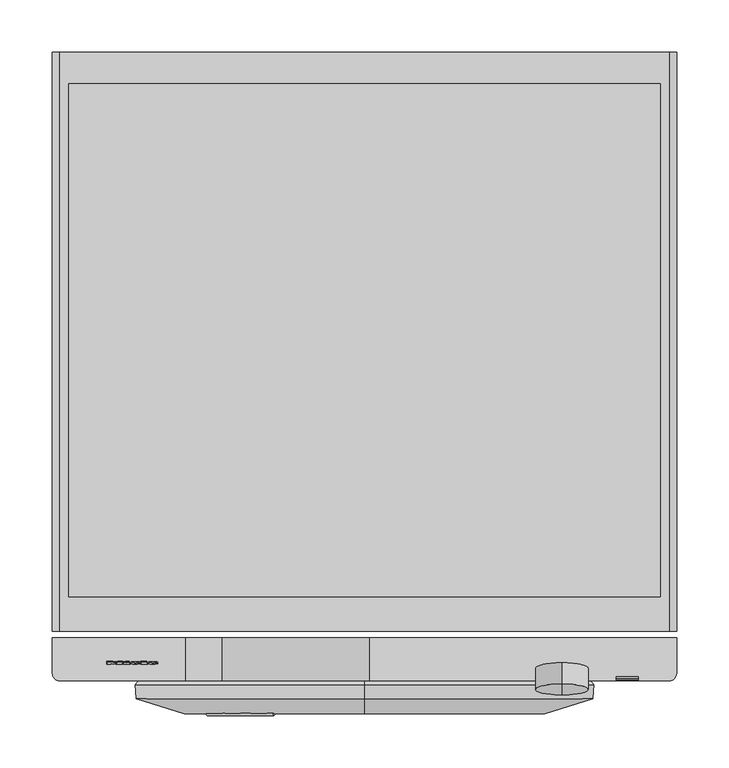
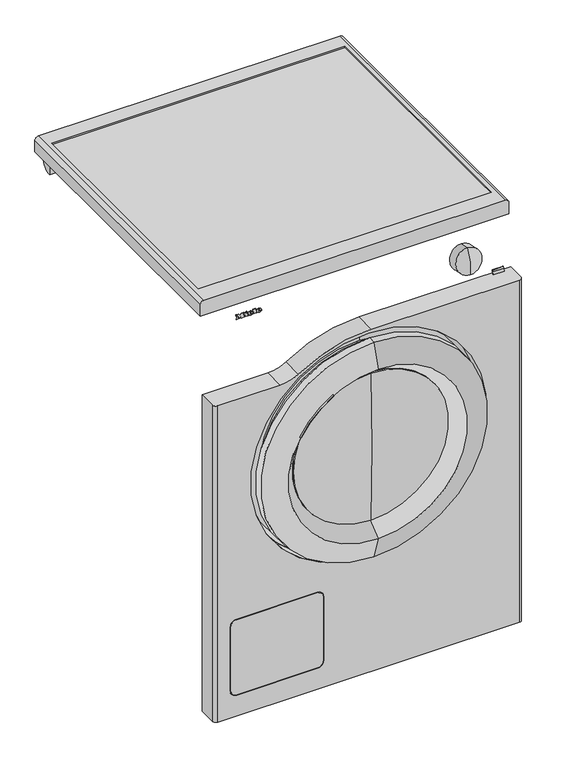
"""IFC4 building model written with IfcOpenShell, lengths in millimetres: proxy geometry, 11272430_D_PWM300DP_LWSmartBiz : 51300001_D_11272430_PWM300DP_LWSmartBiz."""

from ifc_helpers import new_model, si_unit, point, frame, frame_2d, origin, place, context, project, spatial, polyline, circle_curve, ellipse_curve, trimmed, segment, composite_curve, outline, extrude, source, transform, mapped, element, save
from ifc_brep_helpers import plane_surface, cylinder_surface, revolved_surface, extruded_surface, advanced_brep


def specialty_equipment_1517acb9(model_context):
    return source(origin(), model_context, "Body", "SolidModel", [
        advanced_brep(
        [(-202.64, -583.6785086, 811.5729364), (-202.64, -583.5105159, 812.3632796), (-197.288, -583.5105159, 812.3632796), (-206.6, -583.5105159, 812.3632796), (-204.4, -584.0727091, 809.7183685), (-197.424, -583.6785086, 811.5729364), (-199.84, -583.6785086, 811.5729364), (-201.744, -583.8647975, 810.6965161), (-202.64, -583.2976144, 813.3649028), (-202.64, -583.1163154, 814.2178475), (-201.272, -583.1163154, 814.2178475), (-201.272, -583.2976144, 813.3649028), (-202.64, -582.700361, 811.3650247), (-201.744, -582.8866499, 810.4886044), (-199.84, -582.700361, 811.3650247), (-197.424, -582.700361, 811.3650247), (-204.4, -583.0945615, 809.5104568), (-206.6, -582.5323683, 812.1553679), (-197.288, -582.5323683, 812.1553679), (-202.64, -582.5323683, 812.1553679), (-202.64, -582.3194668, 813.1569911), (-201.272, -582.3194668, 813.1569911), (-201.272, -582.1381678, 814.0099358), (-202.64, -582.1381678, 814.0099358)],
        [
            (0, 1),
            (1, 2),
            (2, 3, ellipse_curve(frame((-201.944, -583.5105159, 812.3632796), z_axis=(0.0, -0.9781476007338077, 0.2079116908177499), x_axis=(-1.0, 0.0, 0.0)), 4.656, 3.848)),
            (3, 4, circle_curve(frame((-203.5039564, -583.453964, 812.6293358), z_axis=(0.0, -0.9781476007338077, 0.2079116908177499), x_axis=(0.0, -0.2079116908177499, -0.9781476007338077)), 3.1079688)),
            (4, 5, circle_curve(frame((-202.0372064, -583.0148545, 814.6951835), z_axis=(0.0, -0.9781476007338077, 0.2079116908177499), x_axis=(0.0, -0.2079116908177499, -0.9781476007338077)), 5.6098607)),
            (5, 6),
            (6, 7, circle_curve(frame((-201.3529412, -583.5238223, 812.3006782), z_axis=(0.0, 0.9781476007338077, -0.2079116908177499), x_axis=(0.0, -0.2079116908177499, -0.9781476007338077)), 1.6859795)),
            (7, 0, circle_curve(frame((-201.744, -583.6785086, 811.5729364), z_axis=(0.0, 0.9781476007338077, -0.2079116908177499), x_axis=(0.0, -0.2079116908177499, -0.9781476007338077)), 0.896)),
            (8, 9),
            (9, 10, circle_curve(frame((-201.956, -583.1163154, 814.2178475), z_axis=(0.0, 0.9781476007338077, -0.2079116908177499), x_axis=(0.0, -0.2079116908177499, -0.9781476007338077)), 0.684)),
            (10, 11),
            (11, 8),
            (12, 13, circle_curve(frame((-201.744, -582.700361, 811.3650247), z_axis=(0.0, -0.9781476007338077, 0.2079116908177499), x_axis=(0.0, -0.2079116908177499, -0.9781476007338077)), 0.896)),
            (13, 14, circle_curve(frame((-201.3529412, -582.5456747, 812.0927665), z_axis=(0.0, -0.9781476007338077, 0.2079116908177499), x_axis=(0.0, -0.2079116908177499, -0.9781476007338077)), 1.6859795)),
            (14, 15),
            (15, 16, circle_curve(frame((-202.0372064, -582.0367069, 814.4872718), z_axis=(0.0, 0.9781476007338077, -0.2079116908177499), x_axis=(0.0, -0.2079116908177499, -0.9781476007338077)), 5.6098607)),
            (16, 17, circle_curve(frame((-203.5039564, -582.4758164, 812.4214241), z_axis=(0.0, 0.9781476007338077, -0.2079116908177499), x_axis=(0.0, -0.2079116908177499, -0.9781476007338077)), 3.1079688)),
            (17, 18, ellipse_curve(frame((-201.944, -582.5323683, 812.1553679), z_axis=(0.0, 0.9781476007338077, -0.2079116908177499), x_axis=(-1.0, 0.0, 0.0)), 4.656, 3.848)),
            (18, 19),
            (19, 12),
            (20, 21),
            (21, 22),
            (22, 23, circle_curve(frame((-201.956, -582.1381678, 814.0099358), z_axis=(0.0, -0.9781476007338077, 0.2079116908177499), x_axis=(0.0, -0.2079116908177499, -0.9781476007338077)), 0.684)),
            (23, 20),
            (0, 12),
            (19, 1),
            (18, 2),
            (5, 15),
            (14, 6),
            (17, 3),
            (13, 7),
            (16, 4),
            (8, 20),
            (23, 9),
            (22, 10),
            (21, 11),
        ],
        [
            plane_surface(frame((-202.64, -583.5105159, 812.3632796), z_axis=(0.0, -0.9781476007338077, 0.2079116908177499), x_axis=(0.0, 0.2079116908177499, 0.9781476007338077))),
            plane_surface(frame((-202.64, -582.5323683, 812.1553679), z_axis=(0.0, 0.9781476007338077, -0.2079116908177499), x_axis=(0.0, -0.2079116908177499, -0.9781476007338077))),
            plane_surface(frame((-202.64, -583.6785086, 811.5729364), z_axis=(1.0000000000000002, 0.0, 0.0), x_axis=(0.0, 0.978147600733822, -0.20791169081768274))),
            plane_surface(frame((-202.64, -583.5105159, 812.3632796), z_axis=(0.0, -0.20791169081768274, -0.978147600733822), x_axis=(0.0, 0.978147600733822, -0.20791169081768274))),
            plane_surface(frame((-197.424, -583.6785086, 811.5729364), z_axis=(0.0, 0.20791169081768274, 0.978147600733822), x_axis=(0.0, 0.978147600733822, -0.20791169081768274))),
            extruded_surface(trimmed(ellipse_curve(frame((-201.944, -581.5542207, 811.9474562), z_axis=(0.0, -0.9781476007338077, 0.2079116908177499), x_axis=(-1.0, 0.0, 0.0)), 4.656, 3.848), [point((-197.288, -581.5542207, 811.9474562))], [point((-206.6, -581.5542207, 811.9474562))], True, "CARTESIAN"), (0.0, -0.9781476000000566, 0.20791169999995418), 1.0000000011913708),
            revolved_surface(polyline([(-201.3529412, -582.896209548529, 810.4436296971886), (-201.3529412, -583.8743571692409, 810.6515413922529)]), (-201.3529412, -582.5456747, 812.0927665), (0.0, 0.9781476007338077, -0.2079116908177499)),
            revolved_surface(polyline([(-201.744, -582.8866498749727, 810.4886044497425), (-201.744, -583.8647974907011, 810.6965161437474)]), (-201.744, -582.700361, 811.3650247), (0.0, 0.9781476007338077, -0.2079116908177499)),
            cylinder_surface(frame((-203.5039564, -582.4758164, 812.4214241), z_axis=(0.0, -0.9781476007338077, 0.2079116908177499), x_axis=(0.0, -0.2079116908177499, -0.9781476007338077)), 3.1079688),
            cylinder_surface(frame((-202.0372064, -582.0367069, 814.4872718), z_axis=(0.0, -0.9781476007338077, 0.2079116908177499), x_axis=(0.0, -0.2079116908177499, -0.9781476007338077)), 5.6098607),
            plane_surface(frame((-202.64, -583.2976144, 813.3649028), z_axis=(1.0000000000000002, 0.0, 0.0), x_axis=(0.0, 0.9781476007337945, -0.20791169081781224))),
            revolved_surface(polyline([(-201.956, -582.2803793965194, 813.340882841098), (-201.956, -583.2585269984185, 813.5487945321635)]), (-201.956, -582.1381678, 814.0099358), (0.0, 0.9781476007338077, -0.2079116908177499)),
            plane_surface(frame((-201.272, -583.1163154, 814.2178475), z_axis=(-1.0000000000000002, 0.0, 0.0), x_axis=(0.0, 0.978147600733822, -0.20791169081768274))),
            plane_surface(frame((-201.272, -583.2976144, 813.3649028), z_axis=(0.0, 0.20791169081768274, 0.978147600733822), x_axis=(0.0, 0.978147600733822, -0.20791169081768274))),
        ],
        [
            (0, [[1, 2, 3, 4, 5, 6, 7, 8], [9, 10, 11, 12]]),
            (1, [[13, 14, 15, 16, 17, 18, 19, 20], [21, 22, 23, 24]]),
            (2, [[-1, 25, -20, 26]]),
            (3, [[-2, -26, -19, 27]]),
            (4, [[-6, 28, -15, 29]]),
            (5, [[-3, -27, -18, 30]]),
            (6, [[-7, -29, -14, 31]]),
            (7, [[-8, -31, -13, -25]]),
            (8, [[-4, -30, -17, 32]]),
            (9, [[-5, -32, -16, -28]]),
            (10, [[-9, 33, -24, 34]]),
            (11, [[-10, -34, -23, 35]]),
            (12, [[-11, -35, -22, 36]]),
            (13, [[-12, -36, -21, -33]]),
        ],
    ),
        advanced_brep(
        [(-219.336, -583.6785086, 811.5729364), (-219.336, -583.5105159, 812.3632796), (-213.984, -583.5105159, 812.3632796), (-223.296, -583.5105159, 812.3632796), (-221.096, -584.0727091, 809.7183685), (-214.12, -583.6785086, 811.5729364), (-216.536, -583.6785086, 811.5729364), (-218.44, -583.8647975, 810.6965161), (-219.336, -583.2976144, 813.3649028), (-219.336, -583.1163154, 814.2178475), (-217.968, -583.1163154, 814.2178475), (-217.968, -583.2976144, 813.3649028), (-219.336, -582.700361, 811.3650247), (-218.44, -582.8866499, 810.4886044), (-216.536, -582.700361, 811.3650247), (-214.12, -582.700361, 811.3650247), (-221.096, -583.0945615, 809.5104568), (-223.296, -582.5323683, 812.1553679), (-213.984, -582.5323683, 812.1553679), (-219.336, -582.5323683, 812.1553679), (-219.336, -582.3194668, 813.1569911), (-217.968, -582.3194668, 813.1569911), (-217.968, -582.1381678, 814.0099358), (-219.336, -582.1381678, 814.0099358)],
        [
            (0, 1),
            (1, 2),
            (2, 3, ellipse_curve(frame((-218.64, -583.5105159, 812.3632796), z_axis=(0.0, -0.9781476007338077, 0.2079116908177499), x_axis=(-1.0, 0.0, 0.0)), 4.656, 3.848)),
            (3, 4, circle_curve(frame((-220.1999564, -583.453964, 812.6293358), z_axis=(0.0, -0.9781476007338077, 0.2079116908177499), x_axis=(0.0, -0.2079116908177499, -0.9781476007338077)), 3.1079688)),
            (4, 5, circle_curve(frame((-218.7332064, -583.0148545, 814.6951835), z_axis=(0.0, -0.9781476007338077, 0.2079116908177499), x_axis=(0.0, -0.2079116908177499, -0.9781476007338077)), 5.6098607)),
            (5, 6),
            (6, 7, circle_curve(frame((-218.0489412, -583.5238223, 812.3006782), z_axis=(0.0, 0.9781476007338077, -0.2079116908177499), x_axis=(0.0, -0.2079116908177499, -0.9781476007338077)), 1.6859795)),
            (7, 0, circle_curve(frame((-218.44, -583.6785086, 811.5729364), z_axis=(0.0, 0.9781476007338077, -0.2079116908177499), x_axis=(0.0, -0.2079116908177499, -0.9781476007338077)), 0.896)),
            (8, 9),
            (9, 10, circle_curve(frame((-218.652, -583.1163154, 814.2178475), z_axis=(0.0, 0.9781476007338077, -0.2079116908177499), x_axis=(0.0, -0.2079116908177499, -0.9781476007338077)), 0.684)),
            (10, 11),
            (11, 8),
            (12, 13, circle_curve(frame((-218.44, -582.700361, 811.3650247), z_axis=(0.0, -0.9781476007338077, 0.2079116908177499), x_axis=(0.0, -0.2079116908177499, -0.9781476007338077)), 0.896)),
            (13, 14, circle_curve(frame((-218.0489412, -582.5456747, 812.0927665), z_axis=(0.0, -0.9781476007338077, 0.2079116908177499), x_axis=(0.0, -0.2079116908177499, -0.9781476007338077)), 1.6859795)),
            (14, 15),
            (15, 16, circle_curve(frame((-218.7332064, -582.0367069, 814.4872718), z_axis=(0.0, 0.9781476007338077, -0.2079116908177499), x_axis=(0.0, -0.2079116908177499, -0.9781476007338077)), 5.6098607)),
            (16, 17, circle_curve(frame((-220.1999564, -582.4758164, 812.4214241), z_axis=(0.0, 0.9781476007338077, -0.2079116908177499), x_axis=(0.0, -0.2079116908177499, -0.9781476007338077)), 3.1079688)),
            (17, 18, ellipse_curve(frame((-218.64, -582.5323683, 812.1553679), z_axis=(0.0, 0.9781476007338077, -0.2079116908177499), x_axis=(-1.0, 0.0, 0.0)), 4.656, 3.848)),
            (18, 19),
            (19, 12),
            (20, 21),
            (21, 22),
            (22, 23, circle_curve(frame((-218.652, -582.1381678, 814.0099358), z_axis=(0.0, -0.9781476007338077, 0.2079116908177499), x_axis=(0.0, -0.2079116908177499, -0.9781476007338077)), 0.684)),
            (23, 20),
            (0, 12),
            (19, 1),
            (18, 2),
            (5, 15),
            (14, 6),
            (17, 3),
            (13, 7),
            (16, 4),
            (8, 20),
            (23, 9),
            (22, 10),
            (21, 11),
        ],
        [
            plane_surface(frame((-219.336, -583.5105159, 812.3632796), z_axis=(0.0, -0.9781476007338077, 0.2079116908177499), x_axis=(0.0, 0.2079116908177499, 0.9781476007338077))),
            plane_surface(frame((-219.336, -582.5323683, 812.1553679), z_axis=(0.0, 0.9781476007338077, -0.2079116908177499), x_axis=(0.0, -0.2079116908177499, -0.9781476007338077))),
            plane_surface(frame((-219.336, -583.6785086, 811.5729364), z_axis=(1.0000000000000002, 0.0, 0.0), x_axis=(0.0, 0.978147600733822, -0.20791169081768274))),
            plane_surface(frame((-219.336, -583.5105159, 812.3632796), z_axis=(0.0, -0.20791169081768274, -0.978147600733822), x_axis=(0.0, 0.978147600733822, -0.20791169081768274))),
            plane_surface(frame((-214.12, -583.6785086, 811.5729364), z_axis=(0.0, 0.20791169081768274, 0.978147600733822), x_axis=(0.0, 0.978147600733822, -0.20791169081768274))),
            extruded_surface(trimmed(ellipse_curve(frame((-218.64, -581.5542207, 811.9474562), z_axis=(0.0, -0.9781476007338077, 0.2079116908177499), x_axis=(-1.0, 0.0, 0.0)), 4.656, 3.848), [point((-213.984, -581.5542207, 811.9474562))], [point((-223.296, -581.5542207, 811.9474562))], True, "CARTESIAN"), (0.0, -0.9781476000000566, 0.20791169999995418), 1.0000000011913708),
            revolved_surface(polyline([(-218.0489412, -582.896209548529, 810.4436296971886), (-218.0489412, -583.8743571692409, 810.6515413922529)]), (-218.0489412, -582.5456747, 812.0927665), (0.0, 0.9781476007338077, -0.2079116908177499)),
            revolved_surface(polyline([(-218.44, -582.8866498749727, 810.4886044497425), (-218.44, -583.8647974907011, 810.6965161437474)]), (-218.44, -582.700361, 811.3650247), (0.0, 0.9781476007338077, -0.2079116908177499)),
            cylinder_surface(frame((-220.1999564, -582.4758164, 812.4214241), z_axis=(0.0, -0.9781476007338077, 0.2079116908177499), x_axis=(0.0, -0.2079116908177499, -0.9781476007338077)), 3.1079688),
            cylinder_surface(frame((-218.7332064, -582.0367069, 814.4872718), z_axis=(0.0, -0.9781476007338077, 0.2079116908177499), x_axis=(0.0, -0.2079116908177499, -0.9781476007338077)), 5.6098607),
            plane_surface(frame((-219.336, -583.2976144, 813.3649028), z_axis=(1.0000000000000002, 0.0, 0.0), x_axis=(0.0, 0.9781476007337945, -0.20791169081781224))),
            revolved_surface(polyline([(-218.652, -582.2803793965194, 813.340882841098), (-218.652, -583.2585269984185, 813.5487945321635)]), (-218.652, -582.1381678, 814.0099358), (0.0, 0.9781476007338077, -0.2079116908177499)),
            plane_surface(frame((-217.968, -583.1163154, 814.2178475), z_axis=(-1.0000000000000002, 0.0, 0.0), x_axis=(0.0, 0.978147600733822, -0.20791169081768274))),
            plane_surface(frame((-217.968, -583.2976144, 813.3649028), z_axis=(0.0, 0.20791169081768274, 0.978147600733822), x_axis=(0.0, 0.978147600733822, -0.20791169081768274))),
        ],
        [
            (0, [[1, 2, 3, 4, 5, 6, 7, 8], [9, 10, 11, 12]]),
            (1, [[13, 14, 15, 16, 17, 18, 19, 20], [21, 22, 23, 24]]),
            (2, [[-1, 25, -20, 26]]),
            (3, [[-2, -26, -19, 27]]),
            (4, [[-6, 28, -15, 29]]),
            (5, [[-3, -27, -18, 30]]),
            (6, [[-7, -29, -14, 31]]),
            (7, [[-8, -31, -13, -25]]),
            (8, [[-4, -30, -17, 32]]),
            (9, [[-5, -32, -16, -28]]),
            (10, [[-9, 33, -24, 34]]),
            (11, [[-10, -34, -23, 35]]),
            (12, [[-11, -35, -22, 36]]),
            (13, [[-12, -36, -21, -33]]),
        ],
    ),
        extrude(outline(polyline([(0.0, 0.0), (-0.0109087, -2.9993294), (-1.4390416, -2.9920868), (-1.4315307, 0.0), (0.0, 0.0)])), frame((-228.08, -581.5294023, 816.873952), z_axis=(0.0, -0.9781476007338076, 0.20791169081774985), x_axis=(-0.42472021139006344, 0.18822758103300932, 0.8855411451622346)), (0.0, 0.0, 1.0), 1.0),
        extrude(outline(polyline([(-0.4933908, 2.4141097), (-2.7800844, -2.4601583), (-7.0459742, -0.4588766), (-7.4401146, -1.2990179), (-8.6568709, -0.728194), (-5.976037, 4.9862153), (-4.7592806, 4.4153913), (-5.1636142, 3.5535223), (-2.1941494, 2.16044), (-1.7898157, 3.0223091), (-0.4933908, 2.4141097)])), frame((-228.08, -581.5294023, 816.873952), z_axis=(0.0, -0.9781476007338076, 0.20791169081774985), x_axis=(-0.42472021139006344, 0.18822758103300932, 0.8855411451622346)), (0.0, 0.0, 1.0), 1.0),
        extrude(outline(polyline([(0.0, 0.0), (0.0, -1.3039999), (-5.504, -1.3039999), (-5.504, 5.352), (-6.488, 5.352), (-6.488, 6.696), (0.0, 6.696), (0.0, 5.352), (-0.96, 5.352), (-0.96, 0.0), (0.0, 0.0)])), frame((-213.536, -581.7023849, 816.0601332), z_axis=(0.0, -0.9781476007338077, 0.2079116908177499), x_axis=(-1.0, 0.0, 0.0)), (0.0, 0.0, 1.0), 1.0),
        extrude(outline(polyline([(0.0, 0.0), (0.0, -1.3039999), (-5.576, -1.3039999), (-7.92, 1.6960001), (-10.256, -1.3039999), (-15.128, -1.3039999), (-15.128, 0.0), (-14.112, 0.0), (-14.112, 5.352), (-15.128, 5.352), (-15.128, 6.696), (-8.744, 6.696), (-8.744, 5.352), (-9.728, 5.352), (-9.728, 1.8807777), (-6.136, 6.696), (-2.56, 1.9488753), (-2.56, 5.352), (-3.52, 5.352), (-3.52, 6.696), (0.0, 6.696), (0.0, 5.352), (-0.968, 5.352), (-0.968, 0.0), (0.0, 0.0)])), frame((-246.0, -581.7023849, 816.0601332), z_axis=(0.0, -0.9781476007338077, 0.2079116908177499), x_axis=(-1.0, 0.0, 0.0)), (0.0, 0.0, 1.0), 1.0),
        advanced_brep(
        [(-86.5, -633.2, 627.8223949), (-86.5, -630.2, 627.8223949), (-149.8223949, -633.2, 564.5), (-149.8223949, -630.2, 564.5)],
        [
            (0, 1, circle_curve(frame((-86.5, -631.7, 627.8223949), z_axis=(0.8660254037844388, 0.0, 0.49999999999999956), x_axis=(0.0, 1.0, 0.0)), 1.5)),
            (1, 0, circle_curve(frame((-86.5, -631.7, 627.8223949), z_axis=(0.8660254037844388, 0.0, 0.49999999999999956), x_axis=(0.0, 1.0, 0.0)), 1.5)),
            (2, 3, circle_curve(frame((-149.8223949, -631.7, 564.5), z_axis=(-0.5000000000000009, 0.0, -0.8660254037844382), x_axis=(0.0, 1.0, 0.0)), 1.5)),
            (3, 2, circle_curve(frame((-149.8223949, -631.7, 564.5), z_axis=(-0.5000000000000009, 0.0, -0.8660254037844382), x_axis=(0.0, 1.0, 0.0)), 1.5)),
            (3, 1, circle_curve(frame((0.0, -630.2, 478.0), z_axis=(0.0, 1.0, 0.0), x_axis=(-0.49999999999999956, 0.0, 0.8660254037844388)), 173.0)),
            (0, 2, circle_curve(frame((0.0, -633.2, 478.0), z_axis=(0.0, -1.0, 0.0), x_axis=(-0.49999999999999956, 0.0, 0.8660254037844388)), 173.0)),
        ],
        [
            plane_surface(frame((0.0, 1543.3738435, 478.0), z_axis=(0.8660254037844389, 0.0, 0.4999999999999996), x_axis=(-0.4999999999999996, 0.0, 0.8660254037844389))),
            plane_surface(frame((0.0, 1543.3738435, 478.0), z_axis=(-0.5000000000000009, 0.0, -0.8660254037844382), x_axis=(-0.8660254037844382, 0.0, 0.5000000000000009))),
            revolved_surface(trimmed(ellipse_curve(frame((-86.5, -631.7, 627.8223949), z_axis=(-0.8660254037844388, 0.0, -0.49999999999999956), x_axis=(0.0, 1.0, 0.0)), 1.5, 1.5), [point((-86.5, -630.2, 627.8223949))], [point((-86.5, -633.2, 627.8223949))], True, "CARTESIAN"), (0.0, 1543.3738435, 478.0), (0.0, 1.0, 0.0)),
            revolved_surface(trimmed(ellipse_curve(frame((-86.5, -631.7, 627.8223949), z_axis=(-0.8660254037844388, 0.0, -0.49999999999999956), x_axis=(0.0, 1.0, 0.0)), 1.5, 1.5), [point((-86.5, -633.2, 627.8223949))], [point((-86.5, -630.2, 627.8223949))], True, "CARTESIAN"), (0.0, 1543.3738435, 478.0), (0.0, 1.0, 0.0)),
        ],
        [
            (0, [[1, 2]]),
            (1, [[3, 4]]),
            (2, [[5, -1, 6, -4]]),
            (3, [[-6, -2, -5, -3]]),
        ],
    ),
        advanced_brep(
        [(0.0, -591.2, 328.0), (0.0, -591.2, 628.0), (0.0, -603.5454628, 628.0), (0.0, -603.5454628, 328.0), (0.0, -591.2, 314.0), (0.0, -591.2, 642.0), (0.0, -588.0, 302.5), (0.0, -588.0, 653.5), (0.0, -588.0, 270.7782663), (0.0, -588.0, 685.2217337), (0.0, -603.8, 257.8), (0.0, -603.8, 698.2), (0.0, -617.2157986, 259.0), (0.0, -617.2157986, 697.0), (0.0, -631.667863, 304.9), (0.0, -631.667863, 651.1)],
        [
            (0, 1, circle_curve(frame((0.0, -591.2, 478.0), z_axis=(0.0, 1.0, 0.0), x_axis=(0.0, 0.0, 1.0)), 150.0)),
            (1, 2),
            (2, 3, circle_curve(frame((0.0, -603.5454628, 478.0), z_axis=(0.0, -1.0, 0.0), x_axis=(0.0, 0.0, 1.0)), 150.0)),
            (3, 0),
            (1, 0, circle_curve(frame((0.0, -591.2, 478.0), z_axis=(0.0, 1.0, 0.0), x_axis=(0.0, 0.0, 1.0)), 150.0)),
            (3, 2, circle_curve(frame((0.0, -603.5454628, 478.0), z_axis=(0.0, -1.0, 0.0), x_axis=(0.0, 0.0, 1.0)), 150.0)),
            (4, 5, circle_curve(frame((0.0, -591.2, 478.0), z_axis=(0.0, 1.0, 0.0), x_axis=(0.0, 0.0, 1.0)), 164.0)),
            (5, 1),
            (0, 4),
            (5, 4, circle_curve(frame((0.0, -591.2, 478.0), z_axis=(0.0, 1.0, 0.0), x_axis=(0.0, 0.0, 1.0)), 164.0)),
            (6, 7, circle_curve(frame((0.0, -588.0, 478.0), z_axis=(0.0, 1.0, 0.0), x_axis=(0.0, 0.0, 1.0)), 175.5)),
            (7, 5),
            (4, 6),
            (7, 6, circle_curve(frame((0.0, -588.0, 478.0), z_axis=(0.0, 1.0, 0.0), x_axis=(0.0, 0.0, 1.0)), 175.5)),
            (8, 9, circle_curve(frame((0.0, -588.0, 478.0), z_axis=(0.0, 1.0, 0.0), x_axis=(0.0, 0.0, 1.0)), 207.2217337)),
            (9, 7),
            (6, 8),
            (9, 8, circle_curve(frame((0.0, -588.0, 478.0), z_axis=(0.0, 1.0, 0.0), x_axis=(0.0, 0.0, 1.0)), 207.2217337)),
            (10, 11, circle_curve(frame((0.0, -603.8, 478.0), z_axis=(0.0, 1.0, 0.0), x_axis=(0.0, 0.0, 1.0)), 220.2)),
            (11, 9),
            (8, 10),
            (11, 10, circle_curve(frame((0.0, -603.8, 478.0), z_axis=(0.0, 1.0, 0.0), x_axis=(0.0, 0.0, 1.0)), 220.2)),
            (12, 13, circle_curve(frame((0.0, -617.2157986, 478.0), z_axis=(0.0, 1.0, 0.0), x_axis=(0.0, 0.0, 1.0)), 219.0)),
            (13, 11),
            (10, 12),
            (13, 12, circle_curve(frame((0.0, -617.2157986, 478.0), z_axis=(0.0, 1.0, 0.0), x_axis=(0.0, 0.0, 1.0)), 219.0)),
            (14, 15, circle_curve(frame((0.0, -631.667863, 478.0), z_axis=(0.0, 1.0, 0.0), x_axis=(0.0, 0.0, 1.0)), 173.1)),
            (15, 13, circle_curve(frame((0.0, -52.6, 494.0), z_axis=(-1.0, 0.0, 0.0), x_axis=(0.0, 1.0, 0.0)), 600.0)),
            (12, 14, circle_curve(frame((0.0, -52.6, 462.0), z_axis=(-1.0, 0.0, 0.0), x_axis=(0.0, 1.0, 0.0)), 600.0)),
            (15, 14, circle_curve(frame((0.0, -631.667863, 478.0), z_axis=(0.0, 1.0, 0.0), x_axis=(0.0, 0.0, 1.0)), 173.1)),
            (2, 15),
            (14, 3),
        ],
        [
            revolved_surface(polyline([(0.0, -603.5454628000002, 628.0), (0.0, -591.2000000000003, 628.0)]), (0.0, 1543.3738435, 478.0), (0.0, -1.0, 0.0)),
            plane_surface(frame((0.0, -591.2, 478.0), z_axis=(0.0, 1.0, 0.0), x_axis=(0.0, 0.0, 1.0))),
            revolved_surface(polyline([(0.0, -591.2, 642.0), (0.0, -588.0, 653.5)]), (0.0, 1543.3738435, 478.0), (0.0, -1.0, 0.0)),
            plane_surface(frame((0.0, -588.0, 478.0), z_axis=(0.0, 1.0, 0.0), x_axis=(0.0, 0.0, 1.0))),
            revolved_surface(polyline([(0.0, -588.0, 685.2217337), (0.0, -603.8, 698.2)]), (0.0, 1543.3738435, 478.0), (0.0, -1.0, 0.0)),
            revolved_surface(polyline([(0.0, -603.8, 698.2), (0.0, -617.2157986, 697.0)]), (0.0, 1543.3738435, 478.0), (0.0, -1.0, 0.0)),
            revolved_surface(trimmed(ellipse_curve(frame((0.0, -52.6, 494.0), z_axis=(1.0, 0.0, 0.0), x_axis=(0.0, 1.0, 0.0)), 600.0, 600.0), [point((0.0, -617.2157986, 697.0))], [point((0.0, -631.667863, 651.1))], True, "CARTESIAN"), (0.0, 1543.3738435, 478.0), (0.0, -1.0, 0.0)),
            revolved_surface(polyline([(0.0, -631.667863, 651.1), (0.0, -603.5454628, 628.0)]), (0.0, 1543.3738435, 478.0), (0.0, -1.0, 0.0)),
        ],
        [
            (0, [[1, 2, 3, 4]]),
            (0, [[5, -4, 6, -2]]),
            (1, [[7, 8, -1, 9]]),
            (1, [[10, -9, -5, -8]]),
            (2, [[11, 12, -7, 13]]),
            (2, [[14, -13, -10, -12]]),
            (3, [[15, 16, -11, 17]]),
            (3, [[18, -17, -14, -16]]),
            (4, [[19, 20, -15, 21]]),
            (4, [[22, -21, -18, -20]]),
            (5, [[23, 24, -19, 25]]),
            (5, [[26, -25, -22, -24]]),
            (6, [[27, 28, -23, 29]]),
            (6, [[30, -29, -26, -28]]),
            (7, [[-3, 31, -27, 32]]),
            (7, [[-6, -32, -30, -31]]),
        ],
    ),
        advanced_brep(
        [(0.0, -604.3847498, 328.0), (0.0, -604.3847498, 628.0), (0.0, -607.2, 478.0), (0.0, -606.8865105, 328.0), (0.0, -606.8865105, 628.0), (0.0, -609.7, 478.0)],
        [
            (0, 1, circle_curve(frame((0.0, -604.3847498, 478.0), z_axis=(0.0, 1.0, 0.0), x_axis=(0.0, 0.0, 1.0)), 150.0)),
            (1, 2, circle_curve(frame((0.0, 3390.3, 478.0), z_axis=(1.0, 0.0, 0.0), x_axis=(0.0, 1.0, 0.0)), 3997.5)),
            (2, 0, circle_curve(frame((0.0, 3390.3, 478.0), z_axis=(1.0, 0.0, 0.0), x_axis=(0.0, 1.0, 0.0)), 3997.5)),
            (1, 0, circle_curve(frame((0.0, -604.3847498, 478.0), z_axis=(0.0, 1.0, 0.0), x_axis=(0.0, 0.0, 1.0)), 150.0)),
            (3, 4, circle_curve(frame((0.0, -606.8865105, 478.0), z_axis=(0.0, 1.0, 0.0), x_axis=(0.0, 0.0, 1.0)), 150.0)),
            (4, 1),
            (0, 3),
            (4, 3, circle_curve(frame((0.0, -606.8865105, 478.0), z_axis=(0.0, 1.0, 0.0), x_axis=(0.0, 0.0, 1.0)), 150.0)),
            (5, 4, circle_curve(frame((0.0, 3390.3, 478.0), z_axis=(-1.0, 0.0, 0.0), x_axis=(0.0, 1.0, 0.0)), 4000.0)),
            (3, 5, circle_curve(frame((0.0, 3390.3, 478.0), z_axis=(-1.0, 0.0, 0.0), x_axis=(0.0, 1.0, 0.0)), 4000.0)),
        ],
        [
            revolved_surface(trimmed(ellipse_curve(frame((0.0, 3390.3, 478.0), z_axis=(-1.0, 0.0, 0.0), x_axis=(0.0, 1.0, 0.0)), 3997.5, 3997.5), [point((0.0, -607.2, 478.0))], [point((0.0, -604.3847498, 628.0))], True, "CARTESIAN"), (0.0, 1543.3738435, 478.0), (0.0, -1.0, 0.0)),
            cylinder_surface(frame((0.0, 1543.3738435, 478.0), z_axis=(0.0, -1.0, 0.0), x_axis=(0.0, 0.0, 1.0)), 150.0),
            revolved_surface(trimmed(ellipse_curve(frame((0.0, 3390.3, 478.0), z_axis=(1.0, 0.0, 0.0), x_axis=(0.0, 1.0, 0.0)), 4000.0, 4000.0), [point((0.0, -606.8865105, 628.0))], [point((0.0, -609.7, 478.0))], True, "CARTESIAN"), (0.0, 1543.3738435, 478.0), (0.0, -1.0, 0.0)),
        ],
        [
            (0, [[1, 2, 3]]),
            (0, [[4, -3, -2]]),
            (1, [[5, 6, -1, 7]]),
            (1, [[8, -7, -4, -6]]),
            (2, [[9, -5, 10]]),
            (2, [[-10, -8, -9]]),
        ],
    ),
        advanced_brep(
        [(-291.0, -553.0, 846.0), (291.0, -553.0, 846.0), (291.0, 0.0, 846.0), (-291.0, 0.0, 846.0), (-282.5, -30.0, 846.0), (282.5, -30.0, 846.0), (282.5, -520.0, 846.0), (-282.5, -520.0, 846.0), (-282.5, -30.0, 843.7), (282.5, -30.0, 843.7), (298.0, -553.0, 816.0), (-298.0, -553.0, 816.0), (-298.0, 0.0, 816.0), (298.0, 0.0, 816.0), (298.0, -553.0, 839.0), (-298.0, -553.0, 839.0), (-298.0, 0.0, 839.0), (298.0, 0.0, 839.0), (-282.5, -520.0, 843.7), (282.5, -520.0, 843.7)],
        [
            (0, 1),
            (1, 2),
            (2, 3),
            (3, 0),
            (4, 5),
            (5, 6),
            (6, 7),
            (7, 4),
            (8, 9),
            (9, 5),
            (4, 8),
            (10, 11),
            (11, 12),
            (12, 13),
            (13, 10),
            (10, 14),
            (14, 1, circle_curve(frame((291.0, -553.0, 839.0), z_axis=(0.0, -1.0, 0.0), x_axis=(1.0, 0.0, 0.0)), 7.0)),
            (0, 15, circle_curve(frame((-291.0, -553.0, 839.0), z_axis=(0.0, -1.0, 0.0), x_axis=(1.0, 0.0, 0.0)), 7.0)),
            (15, 11),
            (12, 16),
            (16, 3, circle_curve(frame((-291.0, 0.0, 839.0), z_axis=(0.0, 1.0, 0.0), x_axis=(1.0, 0.0, 0.0)), 7.0)),
            (2, 17, circle_curve(frame((291.0, 0.0, 839.0), z_axis=(0.0, 1.0, 0.0), x_axis=(1.0, 0.0, 0.0)), 7.0)),
            (17, 13),
            (17, 14),
            (15, 16),
            (8, 18),
            (18, 19),
            (19, 9),
            (7, 18),
            (19, 6),
        ],
        [
            plane_surface(frame((291.0, -553.0, 846.0), z_axis=(0.0, 0.0, 1.0), x_axis=(0.0, 1.0, 0.0))),
            plane_surface(frame((282.5, -30.0, 846.0), z_axis=(0.0, -1.0, 0.0), x_axis=(0.0, 0.0, -1.0))),
            plane_surface(frame((-298.0, -553.0, 816.0), z_axis=(0.0, 0.0, -1.0), x_axis=(0.0, 1.0, 0.0))),
            plane_surface(frame((298.0, -553.0, 816.0), z_axis=(0.0, -1.0, 0.0), x_axis=(0.0, 0.0, 1.0))),
            plane_surface(frame((298.0, 0.0, 816.0), z_axis=(0.0, 1.0, 0.0), x_axis=(0.0, 0.0, -1.0))),
            plane_surface(frame((298.0, -553.0, 816.0), z_axis=(1.0, 0.0, 0.0), x_axis=(0.0, 1.0, 0.0))),
            plane_surface(frame((-298.0, -553.0, 839.0), z_axis=(-1.0, 0.0, 0.0), x_axis=(0.0, 1.0, 0.0))),
            cylinder_surface(frame((291.0, 0.0, 839.0), z_axis=(0.0, -1.0, 0.0), x_axis=(1.0, 0.0, 0.0)), 7.0),
            cylinder_surface(frame((-291.0, 0.0, 839.0), z_axis=(0.0, -1.0, 0.0), x_axis=(1.0, 0.0, 0.0)), 7.0),
            plane_surface(frame((-282.5, -30.0, 843.7), z_axis=(0.0, 0.0, 1.0), x_axis=(1.0, 0.0, 0.0))),
            plane_surface(frame((-282.5, -30.0, 846.0), z_axis=(1.0, 0.0, 0.0), x_axis=(0.0, 0.0, -1.0))),
            plane_surface(frame((282.5, -520.0, 846.0), z_axis=(-1.0, 0.0, 0.0), x_axis=(0.0, 0.0, -1.0))),
            plane_surface(frame((-282.5, -520.0, 846.0), z_axis=(0.0, 1.0, 0.0), x_axis=(0.0, 0.0, -1.0))),
        ],
        [
            (0, [[1, 2, 3, 4], [5, 6, 7, 8]]),
            (1, [[9, 10, -5, 11]]),
            (2, [[12, 13, 14, 15]]),
            (3, [[16, 17, -1, 18, 19, -12]]),
            (4, [[-14, 20, 21, -3, 22, 23]]),
            (5, [[-16, -15, -23, 24]]),
            (6, [[-19, 25, -20, -13]]),
            (7, [[-17, -24, -22, -2]]),
            (8, [[-18, -4, -21, -25]]),
            (9, [[-9, 26, 27, 28]]),
            (10, [[-26, -11, -8, 29]]),
            (11, [[-28, 30, -6, -10]]),
            (12, [[-27, -29, -7, -30]]),
        ],
    ),
        extrude(outline(composite_curve([segment(polyline([(-10.6220839, 816.0), (-10.6220839, 807.1251898)]), True, "CONTINUOUS"), segment(trimmed(circle_curve(frame_2d((-33.0, 807.1251898)), 22.3779161), [point((-10.6220839, 807.1251898))], [point((-32.0, 784.7696284))], False, "CARTESIAN"), True, "CONTINUOUS"), segment(polyline([(-32.0, 784.7696284), (-32.0, 816.0), (-10.6220839, 816.0)]), True, "CONTINUOUS")], self_intersect=False)), frame((264.2, 0.0, 0.0), z_axis=(1.0, 0.0, 0.0), x_axis=(0.0, 1.0, 0.0)), (0.0, 0.0, 1.0), 24.0),
        extrude(outline(composite_curve([segment(polyline([(-32.0, 784.7696284), (-32.0, 816.0), (-10.6220839, 816.0), (-10.6220839, 807.1251898)]), True, "CONTINUOUS"), segment(trimmed(circle_curve(frame_2d((-33.0, 807.1251898)), 22.3779161), [point((-10.6220839, 807.1251898))], [point((-32.0, 784.7696284))], False, "CARTESIAN"), True, "CONTINUOUS")], self_intersect=False)), frame((-288.2, 0.0, 0.0), z_axis=(1.0, 0.0, 0.0), x_axis=(0.0, 1.0, 0.0)), (0.0, 0.0, 1.0), 24.0),
        advanced_brep(
        [(298.0, -559.0, 712.0), (298.0, -559.0, 13.5), (-298.0, -559.0, 13.5), (-298.0, -559.0, 659.0), (-170.4793435, -559.0, 659.0), (-135.8816811, -559.0, 669.4495268), (5.0, -559.0, 712.0), (0.0, -559.0, 628.0), (0.0, -559.0, 328.0), (-99.0, -559.0, 211.0), (-255.0, -559.0, 211.0), (-267.0, -559.0, 199.0), (-267.0, -559.0, 68.0), (-255.0, -559.0, 56.0), (-99.0, -559.0, 56.0), (-87.0, -559.0, 68.0), (-87.0, -559.0, 199.0), (-291.0, -600.0, 13.5), (291.0, -600.0, 13.5), (291.0, -600.0, 712.0), (5.0, -600.0, 712.0), (-135.8816811, -600.0, 669.4495268), (-170.4793435, -600.0, 659.0), (-291.0, -600.0, 659.0), (0.0, -600.0, 250.5), (0.0, -600.0, 705.5), (-255.0, -600.0, 211.0), (-99.0, -600.0, 211.0), (-87.0, -600.0, 199.0), (-87.0, -600.0, 68.0), (-99.0, -600.0, 56.0), (-255.0, -600.0, 56.0), (-267.0, -600.0, 68.0), (-267.0, -600.0, 199.0), (298.0, -593.0, 712.0), (-298.0, -593.0, 13.5), (-298.0, -593.0, 659.0), (298.0, -593.0, 13.5), (0.0, -575.2, 705.5), (0.0, -575.2, 250.5), (0.0, -567.7, 671.0), (0.0, -567.7, 698.0), (0.0, -567.7, 258.0), (0.0, -567.7, 285.0), (0.0, -560.7, 289.0414519), (0.0, -560.7, 666.9585481), (0.0, -560.7, 322.8), (0.0, -560.7, 633.2), (0.0, -570.5, 322.8), (0.0, -570.5, 633.2), (0.0, -570.5, 341.8), (0.0, -570.5, 614.2), (0.0, -568.0, 341.8), (0.0, -568.0, 614.2), (0.0, -568.0, 328.0), (0.0, -568.0, 628.0)],
        [
            (0, 1),
            (1, 2),
            (2, 3),
            (3, 4),
            (4, 5, circle_curve(frame((-170.4793435, -559.0, 721.5), z_axis=(0.0, -1.0, 0.0), x_axis=(1.0, 0.0, 0.0)), 62.5)),
            (5, 6, circle_curve(frame((5.0, -559.0, 457.5), z_axis=(0.0, 1.0, 0.0), x_axis=(1.0, 0.0, 0.0)), 254.5)),
            (6, 0),
            (7, 8, circle_curve(frame((0.0, -559.0, 478.0), z_axis=(0.0, -1.0, 0.0), x_axis=(0.0, 0.0, -1.0)), 150.0)),
            (8, 7, circle_curve(frame((0.0, -559.0, 478.0), z_axis=(0.0, -1.0, 0.0), x_axis=(0.0, 0.0, -1.0)), 150.0)),
            (9, 10),
            (10, 11, circle_curve(frame((-255.0, -559.0, 199.0), z_axis=(0.0, -1.0, 0.0), x_axis=(1.0, 0.0, 0.0)), 12.0)),
            (11, 12),
            (12, 13, circle_curve(frame((-255.0, -559.0, 68.0), z_axis=(0.0, -1.0, 0.0), x_axis=(1.0, 0.0, 0.0)), 12.0)),
            (13, 14),
            (14, 15, circle_curve(frame((-99.0, -559.0, 68.0), z_axis=(0.0, -1.0, 0.0), x_axis=(1.0, 0.0, 0.0)), 12.0)),
            (15, 16),
            (16, 9, circle_curve(frame((-99.0, -559.0, 199.0), z_axis=(0.0, -1.0, 0.0), x_axis=(1.0, 0.0, 0.0)), 12.0)),
            (17, 18),
            (18, 19),
            (19, 20),
            (20, 21, circle_curve(frame((5.0, -600.0, 457.5), z_axis=(0.0, -1.0, 0.0), x_axis=(1.0, 0.0, 0.0)), 254.5)),
            (21, 22, circle_curve(frame((-170.4793435, -600.0, 721.5), z_axis=(0.0, 1.0, 0.0), x_axis=(1.0, 0.0, 0.0)), 62.5)),
            (22, 23),
            (23, 17),
            (24, 25, circle_curve(frame((0.0, -600.0, 478.0), z_axis=(0.0, 1.0, 0.0), x_axis=(0.0, 0.0, -1.0)), 227.5)),
            (25, 24, circle_curve(frame((0.0, -600.0, 478.0), z_axis=(0.0, 1.0, 0.0), x_axis=(0.0, 0.0, -1.0)), 227.5)),
            (26, 27),
            (27, 28, circle_curve(frame((-99.0, -600.0, 199.0), z_axis=(0.0, 1.0, 0.0), x_axis=(1.0, 0.0, 0.0)), 12.0)),
            (28, 29),
            (29, 30, circle_curve(frame((-99.0, -600.0, 68.0), z_axis=(0.0, 1.0, 0.0), x_axis=(1.0, 0.0, 0.0)), 12.0)),
            (30, 31),
            (31, 32, circle_curve(frame((-255.0, -600.0, 68.0), z_axis=(0.0, 1.0, 0.0), x_axis=(1.0, 0.0, 0.0)), 12.0)),
            (32, 33),
            (33, 26, circle_curve(frame((-255.0, -600.0, 199.0), z_axis=(0.0, 1.0, 0.0), x_axis=(1.0, 0.0, 0.0)), 12.0)),
            (34, 0),
            (6, 20),
            (19, 34, circle_curve(frame((291.0, -593.0, 712.0), z_axis=(0.0, 0.0, 1.0), x_axis=(-1.0, 0.0, 0.0)), 7.0)),
            (2, 35),
            (35, 36),
            (36, 3),
            (1, 37),
            (37, 18, circle_curve(frame((291.0, -593.0, 13.5), z_axis=(0.0, 0.0, -1.0), x_axis=(-1.0, 0.0, 0.0)), 7.0)),
            (17, 35, circle_curve(frame((-291.0, -593.0, 13.5), z_axis=(0.0, 0.0, -1.0), x_axis=(-1.0, 0.0, 0.0)), 7.0)),
            (34, 37),
            (38, 25),
            (24, 39),
            (39, 38, circle_curve(frame((0.0, -575.2, 478.0), z_axis=(0.0, 1.0, 0.0), x_axis=(0.0, 0.0, -1.0)), 227.5)),
            (38, 39, circle_curve(frame((0.0, -575.2, 478.0), z_axis=(0.0, 1.0, 0.0), x_axis=(0.0, 0.0, -1.0)), 227.5)),
            (40, 41),
            (41, 42, circle_curve(frame((0.0, -567.7, 478.0), z_axis=(0.0, -1.0, 0.0), x_axis=(0.0, 0.0, -1.0)), 220.0)),
            (42, 43),
            (43, 40, circle_curve(frame((0.0, -567.7, 478.0), z_axis=(0.0, 1.0, 0.0), x_axis=(0.0, 0.0, -1.0)), 193.0)),
            (40, 43, circle_curve(frame((0.0, -567.7, 478.0), z_axis=(0.0, 1.0, 0.0), x_axis=(0.0, 0.0, -1.0)), 193.0)),
            (42, 41, circle_curve(frame((0.0, -567.7, 478.0), z_axis=(0.0, -1.0, 0.0), x_axis=(0.0, 0.0, -1.0)), 220.0)),
            (43, 44),
            (44, 45, circle_curve(frame((0.0, -560.7, 478.0), z_axis=(0.0, 1.0, 0.0), x_axis=(0.0, 0.0, -1.0)), 188.9585481)),
            (45, 40),
            (45, 44, circle_curve(frame((0.0, -560.7, 478.0), z_axis=(0.0, 1.0, 0.0), x_axis=(0.0, 0.0, -1.0)), 188.9585481)),
            (44, 46),
            (46, 47, circle_curve(frame((0.0, -560.7, 478.0), z_axis=(0.0, 1.0, 0.0), x_axis=(0.0, 0.0, -1.0)), 155.2)),
            (47, 45),
            (47, 46, circle_curve(frame((0.0, -560.7, 478.0), z_axis=(0.0, 1.0, 0.0), x_axis=(0.0, 0.0, -1.0)), 155.2)),
            (46, 48),
            (48, 49, circle_curve(frame((0.0, -570.5, 478.0), z_axis=(0.0, 1.0, 0.0), x_axis=(0.0, 0.0, -1.0)), 155.2)),
            (49, 47),
            (49, 48, circle_curve(frame((0.0, -570.5, 478.0), z_axis=(0.0, 1.0, 0.0), x_axis=(0.0, 0.0, -1.0)), 155.2)),
            (48, 50),
            (50, 51, circle_curve(frame((0.0, -570.5, 478.0), z_axis=(0.0, 1.0, 0.0), x_axis=(0.0, 0.0, -1.0)), 136.2)),
            (51, 49),
            (51, 50, circle_curve(frame((0.0, -570.5, 478.0), z_axis=(0.0, 1.0, 0.0), x_axis=(0.0, 0.0, -1.0)), 136.2)),
            (50, 52),
            (52, 53, circle_curve(frame((0.0, -568.0, 478.0), z_axis=(0.0, 1.0, 0.0), x_axis=(0.0, 0.0, -1.0)), 136.2)),
            (53, 51),
            (53, 52, circle_curve(frame((0.0, -568.0, 478.0), z_axis=(0.0, 1.0, 0.0), x_axis=(0.0, 0.0, -1.0)), 136.2)),
            (52, 54),
            (54, 55, circle_curve(frame((0.0, -568.0, 478.0), z_axis=(0.0, 1.0, 0.0), x_axis=(0.0, 0.0, -1.0)), 150.0)),
            (55, 53),
            (55, 54, circle_curve(frame((0.0, -568.0, 478.0), z_axis=(0.0, 1.0, 0.0), x_axis=(0.0, 0.0, -1.0)), 150.0)),
            (54, 8),
            (7, 55),
            (39, 42, circle_curve(frame((0.0, -575.2, 258.0), z_axis=(1.0, 0.0, 0.0), x_axis=(0.0, 1.0, 0.0)), 7.5)),
            (41, 38, circle_curve(frame((0.0, -575.2, 698.0), z_axis=(1.0, 0.0, 0.0), x_axis=(0.0, 1.0, 0.0)), 7.5)),
            (5, 21),
            (4, 22),
            (36, 23, circle_curve(frame((-291.0, -593.0, 659.0), z_axis=(0.0, 0.0, 1.0), x_axis=(-1.0, 0.0, 0.0)), 7.0)),
            (26, 10),
            (9, 27),
            (33, 11),
            (32, 12),
            (31, 13),
            (30, 14),
            (29, 15),
            (28, 16),
        ],
        [
            plane_surface(frame((-298.0, -559.0, 712.0), z_axis=(0.0, 1.0, 0.0), x_axis=(1.0, 0.0, 0.0))),
            plane_surface(frame((-298.0, -600.0, 712.0), z_axis=(0.0, -1.0, 0.0), x_axis=(-1.0, 0.0, 0.0))),
            plane_surface(frame((298.0, -600.0, 712.0), z_axis=(0.0, 0.0, 1.0), x_axis=(0.0, 1.0, 0.0))),
            plane_surface(frame((-298.0, -600.0, 712.0), z_axis=(-1.0, 0.0, 0.0), x_axis=(0.0, 1.0, 0.0))),
            plane_surface(frame((-298.0, -600.0, 13.5), z_axis=(0.0, 0.0, -1.0), x_axis=(0.0, 1.0, 0.0))),
            plane_surface(frame((298.0, -600.0, 13.5), z_axis=(1.0, 0.0, 0.0), x_axis=(0.0, 1.0, 0.0))),
            revolved_surface(polyline([(0.0, -575.2000000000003, 250.5), (0.0, -600.0, 250.5)]), (0.0, 1543.3738435, 478.0), (0.0, 1.0, 0.0)),
            plane_surface(frame((0.0, -567.7, 478.0), z_axis=(0.0, -1.0, 0.0), x_axis=(0.0, 0.0, -1.0))),
            revolved_surface(polyline([(0.0, -560.7, 289.0414519), (0.0, -567.7, 285.0)]), (0.0, 1543.3738435, 478.0), (0.0, 1.0, 0.0)),
            plane_surface(frame((0.0, -560.7, 478.0), z_axis=(0.0, -1.0, 0.0), x_axis=(0.0, 0.0, -1.0))),
            cylinder_surface(frame((0.0, 1543.3738435, 478.0), z_axis=(0.0, 1.0, 0.0), x_axis=(0.0, 0.0, -1.0)), 155.2),
            plane_surface(frame((0.0, -570.5, 478.0), z_axis=(0.0, -1.0, 0.0), x_axis=(0.0, 0.0, -1.0))),
            revolved_surface(polyline([(0.0, -568.0, 341.8), (0.0, -570.5, 341.8)]), (0.0, 1543.3738435, 478.0), (0.0, 1.0, 0.0)),
            plane_surface(frame((0.0, -568.0, 478.0), z_axis=(0.0, 1.0, 0.0), x_axis=(0.0, 0.0, -1.0))),
            revolved_surface(polyline([(0.0, -559.0, 328.0), (0.0, -568.0, 328.0)]), (0.0, 1543.3738435, 478.0), (0.0, 1.0, 0.0)),
            revolved_surface(trimmed(ellipse_curve(frame((0.0, -575.2, 258.0), z_axis=(-1.0, 0.0, 0.0), x_axis=(0.0, 1.0, 0.0)), 7.5, 7.5), [point((0.0, -567.7, 258.0))], [point((0.0, -575.2, 250.5))], True, "CARTESIAN"), (0.0, 1543.3738435, 478.0), (0.0, 1.0, 0.0)),
            cylinder_surface(frame((5.0, -559.0, 457.5), z_axis=(0.0, 1.0, 0.0), x_axis=(1.0, 0.0, 0.0)), 254.5),
            revolved_surface(polyline([(-107.9793435, -600.0, 721.5), (-107.9793435, -559.0, 721.5)]), (-170.4793435, -559.0, 721.5), (0.0, -1.0, 0.0)),
            plane_surface(frame((-298.0, -600.0, 659.0), z_axis=(0.0, 0.0, 1.0), x_axis=(0.0, 1.0, 0.0))),
            cylinder_surface(frame((-291.0, -593.0, 712.0), z_axis=(0.0, 0.0, -1.0), x_axis=(-1.0, 0.0, 0.0)), 7.0),
            cylinder_surface(frame((291.0, -593.0, 712.0), z_axis=(0.0, 0.0, -1.0), x_axis=(-1.0, 0.0, 0.0)), 7.0),
            plane_surface(frame((-99.0, -600.0, 211.0), z_axis=(0.0, 0.0, -1.0), x_axis=(0.0, 1.0, 0.0))),
            revolved_surface(polyline([(-243.0, -600.0, 199.0), (-243.0, -559.0, 199.0)]), (-255.0, -559.0, 199.0), (0.0, -1.0, 0.0)),
            plane_surface(frame((-267.0, -600.0, 199.0), z_axis=(1.0, 0.0, 0.0), x_axis=(0.0, 1.0, 0.0))),
            revolved_surface(polyline([(-243.0, -600.0, 68.0), (-243.0, -559.0, 68.0)]), (-255.0, -559.0, 68.0), (0.0, -1.0, 0.0)),
            plane_surface(frame((-255.0, -600.0, 56.0), z_axis=(0.0, 0.0, 1.0), x_axis=(0.0, 1.0, 0.0))),
            revolved_surface(polyline([(-87.0, -600.0, 68.0), (-87.0, -559.0, 68.0)]), (-99.0, -559.0, 68.0), (0.0, -1.0, 0.0)),
            plane_surface(frame((-87.0, -600.0, 68.0), z_axis=(-1.0, 0.0, 0.0), x_axis=(0.0, 1.0, 0.0))),
            revolved_surface(polyline([(-87.0, -600.0, 199.0), (-87.0, -559.0, 199.0)]), (-99.0, -559.0, 199.0), (0.0, -1.0, 0.0)),
        ],
        [
            (0, [[1, 2, 3, 4, 5, 6, 7], [8, 9], [10, 11, 12, 13, 14, 15, 16, 17]]),
            (1, [[18, 19, 20, 21, 22, 23, 24], [25, 26], [27, 28, 29, 30, 31, 32, 33, 34]]),
            (2, [[35, -7, 36, -20, 37]]),
            (3, [[38, 39, 40, -3]]),
            (4, [[-2, 41, 42, -18, 43, -38]]),
            (5, [[-1, -35, 44, -41]]),
            (6, [[45, -25, 46, 47]]),
            (6, [[-45, 48, -46, -26]]),
            (7, [[49, 50, 51, 52]]),
            (7, [[-49, 53, -51, 54]]),
            (8, [[-52, 55, 56, 57]]),
            (8, [[-53, -57, 58, -55]]),
            (9, [[-56, 59, 60, 61]]),
            (9, [[-58, -61, 62, -59]]),
            (10, [[-60, 63, 64, 65]]),
            (10, [[-62, -65, 66, -63]]),
            (11, [[-64, 67, 68, 69]]),
            (11, [[-66, -69, 70, -67]]),
            (12, [[-68, 71, 72, 73]]),
            (12, [[-70, -73, 74, -71]]),
            (13, [[-72, 75, 76, 77]]),
            (13, [[-74, -77, 78, -75]]),
            (14, [[-76, 79, -8, 80]]),
            (14, [[-78, -80, -9, -79]]),
            (15, [[-47, 81, -50, 82]]),
            (15, [[-48, -82, -54, -81]]),
            (16, [[83, -21, -36, -6]]),
            (17, [[-83, -5, 84, -22]]),
            (18, [[-84, -4, -40, 85, -23]]),
            (19, [[-43, -24, -85, -39]]),
            (20, [[-19, -42, -44, -37]]),
            (21, [[86, -10, 87, -27]]),
            (22, [[-86, -34, 88, -11]]),
            (23, [[-88, -33, 89, -12]]),
            (24, [[-89, -32, 90, -13]]),
            (25, [[-90, -31, 91, -14]]),
            (26, [[-91, -30, 92, -15]]),
            (27, [[-92, -29, 93, -16]]),
            (28, [[-87, -17, -93, -28]]),
        ],
    ),
        advanced_brep(
        [(-99.0, -559.0, 210.0), (-88.0, -559.0, 199.0), (-88.0, -559.0, 68.0), (-99.0, -559.0, 57.0), (-255.0, -559.0, 57.0), (-266.0, -559.0, 68.0), (-266.0, -559.0, 199.0), (-255.0, -559.0, 210.0), (-88.0, -600.0, 199.0), (-99.0, -600.0, 210.0), (-255.0, -600.0, 210.0), (-266.0, -600.0, 199.0), (-266.0, -600.0, 68.0), (-255.0, -600.0, 57.0), (-99.0, -600.0, 57.0), (-88.0, -600.0, 68.0)],
        [
            (0, 1, circle_curve(frame((-99.0, -559.0, 199.0), z_axis=(0.0, 1.0, 0.0), x_axis=(1.0, 0.0, 0.0)), 11.0)),
            (1, 2),
            (2, 3, circle_curve(frame((-99.0, -559.0, 68.0), z_axis=(0.0, 1.0, 0.0), x_axis=(1.0, 0.0, 0.0)), 11.0)),
            (3, 4),
            (4, 5, circle_curve(frame((-255.0, -559.0, 68.0), z_axis=(0.0, 1.0, 0.0), x_axis=(1.0, 0.0, 0.0)), 11.0)),
            (5, 6),
            (6, 7, circle_curve(frame((-255.0, -559.0, 199.0), z_axis=(0.0, 1.0, 0.0), x_axis=(1.0, 0.0, 0.0)), 11.0)),
            (7, 0),
            (8, 9, circle_curve(frame((-99.0, -600.0, 199.0), z_axis=(0.0, -1.0, 0.0), x_axis=(1.0, 0.0, 0.0)), 11.0)),
            (9, 10),
            (10, 11, circle_curve(frame((-255.0, -600.0, 199.0), z_axis=(0.0, -1.0, 0.0), x_axis=(1.0, 0.0, 0.0)), 11.0)),
            (11, 12),
            (12, 13, circle_curve(frame((-255.0, -600.0, 68.0), z_axis=(0.0, -1.0, 0.0), x_axis=(1.0, 0.0, 0.0)), 11.0)),
            (13, 14),
            (14, 15, circle_curve(frame((-99.0, -600.0, 68.0), z_axis=(0.0, -1.0, 0.0), x_axis=(1.0, 0.0, 0.0)), 11.0)),
            (15, 8),
            (8, 1),
            (0, 9),
            (15, 2),
            (14, 3),
            (13, 4),
            (12, 5),
            (11, 6),
            (10, 7),
        ],
        [
            plane_surface(frame((-298.0, -559.0, 712.0), z_axis=(0.0, 1.0, 0.0), x_axis=(1.0, 0.0, 0.0))),
            plane_surface(frame((-298.0, -600.0, 712.0), z_axis=(0.0, -1.0, 0.0), x_axis=(-1.0, 0.0, 0.0))),
            cylinder_surface(frame((-99.0, 0.0, 199.0), z_axis=(0.0, 1.0, 0.0), x_axis=(1.0, 0.0, 0.0)), 11.0),
            plane_surface(frame((-88.0, -600.0, 199.0), z_axis=(1.0, 0.0, 0.0), x_axis=(0.0, 1.0, 0.0))),
            cylinder_surface(frame((-99.0, 0.0, 68.0), z_axis=(0.0, 1.0, 0.0), x_axis=(1.0, 0.0, 0.0)), 11.0),
            plane_surface(frame((-99.0, -600.0, 57.0), z_axis=(0.0, 0.0, -1.0), x_axis=(0.0, 1.0, 0.0))),
            cylinder_surface(frame((-255.0, 0.0, 68.0), z_axis=(0.0, 1.0, 0.0), x_axis=(1.0, 0.0, 0.0)), 11.0),
            plane_surface(frame((-266.0, -600.0, 68.0), z_axis=(-1.0, 0.0, 0.0), x_axis=(0.0, 1.0, 0.0))),
            cylinder_surface(frame((-255.0, 0.0, 199.0), z_axis=(0.0, 1.0, 0.0), x_axis=(1.0, 0.0, 0.0)), 11.0),
            plane_surface(frame((-255.0, -600.0, 210.0), z_axis=(0.0, 0.0, 1.0), x_axis=(0.0, 1.0, 0.0))),
        ],
        [
            (0, [[1, 2, 3, 4, 5, 6, 7, 8]]),
            (1, [[9, 10, 11, 12, 13, 14, 15, 16]]),
            (2, [[17, -1, 18, -9]]),
            (3, [[-17, -16, 19, -2]]),
            (4, [[-19, -15, 20, -3]]),
            (5, [[-20, -14, 21, -4]]),
            (6, [[-21, -13, 22, -5]]),
            (7, [[-22, -12, 23, -6]]),
            (8, [[-23, -11, 24, -7]]),
            (9, [[-18, -8, -24, -10]]),
        ],
    ),
        advanced_brep(
        [(188.5, -588.0968325, 787.0), (188.5, -593.2946248, 762.54631), (188.5, -582.8990403, 811.45369), (188.5, -603.1294216, 815.7537903), (188.5, -613.5250061, 766.8464103), (188.5, -613.5250061, 792.4049251)],
        [
            (0, 1),
            (1, 2, circle_curve(frame((188.5, -588.0968325, 787.0), z_axis=(0.0, 0.9781476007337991, -0.20791169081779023), x_axis=(0.0, -0.20791169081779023, -0.9781476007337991)), 25.0)),
            (2, 0),
            (2, 1, circle_curve(frame((188.5, -588.0968325, 787.0), z_axis=(0.0, 0.9781476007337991, -0.20791169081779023), x_axis=(0.0, -0.20791169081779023, -0.9781476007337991)), 25.0)),
            (3, 4, circle_curve(frame((188.5, -608.3272138, 791.3001003), z_axis=(0.0, -0.9781476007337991, 0.20791169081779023), x_axis=(0.0, -0.20791169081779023, -0.9781476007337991)), 25.0)),
            (4, 5),
            (5, 3),
            (4, 3, circle_curve(frame((188.5, -608.3272138, 791.3001003), z_axis=(0.0, -0.9781476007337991, 0.20791169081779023), x_axis=(0.0, -0.20791169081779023, -0.9781476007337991)), 25.0)),
            (1, 4),
            (3, 2),
        ],
        [
            plane_surface(frame((188.5, -588.0968325, 787.0), z_axis=(0.0, 0.9781476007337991, -0.20791169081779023), x_axis=(0.0, -0.20791169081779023, -0.9781476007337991))),
            revolved_surface(polyline([(188.5, -613.5250061, 792.4049251), (188.5, -613.5250061, 766.8464103)]), (188.5, -613.5250061, 792.4049251), (0.0, 0.9781476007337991, -0.20791169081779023)),
            cylinder_surface(frame((188.5, -613.5250061, 792.4049251), z_axis=(0.0, 0.9781476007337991, -0.20791169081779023), x_axis=(0.0, -0.20791169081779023, -0.9781476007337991)), 25.0),
        ],
        [
            (0, [[1, 2, 3]]),
            (0, [[-3, 4, -1]]),
            (1, [[5, 6, 7]]),
            (1, [[8, -7, -6]]),
            (2, [[-2, 9, -5, 10]]),
            (2, [[-4, -10, -8, -9]]),
        ],
    ),
        extrude(outline(polyline([(-597.9807127, 740.5), (-600.0253939, 740.5), (-598.9026757, 745.7819736), (-597.6352392, 748.5), (-596.2802602, 748.5), (-597.9807127, 740.5)])), frame((240.5, 0.0, 0.0), z_axis=(1.0, 0.0, 0.0), x_axis=(0.0, 1.0, 0.0)), (0.0, 0.0, 1.0), 21.0),
    ])


if __name__ == "__main__":
    model = new_model("IFC4")
    model_context = context("Model", 3, world=origin())
    ifc_project = project(units=[si_unit("LENGTHUNIT", "METRE", prefix="MILLI")], contexts=[model_context])
    site = spatial("IfcSite", under=ifc_project)
    building = spatial("IfcBuilding", under=site)
    placement = place(None, origin())
    specialty_equipment_shape = specialty_equipment_1517acb9(model_context)
    element("IfcBuildingElementProxy", 1, Name="11272430_D_PWM300DP_LWSmartBiz : 51300001_D_11272430_PWM300DP_LWSmartBiz", ObjectType="11272430_D_PWM300DP_LWSmartBiz : 51300001_D_11272430_PWM300DP_LWSmartBiz", at=placement, inside=building, context=model_context, shape_type="MappedRepresentation", body=[
        mapped(specialty_equipment_shape, transform((0.0, 0.0, 0.0), x_axis=(1.0, 0.0, 0.0), y_axis=(0.0, 1.0, 0.0), z_axis=(0.0, 0.0, 1.0))),
    ])
    save(model, "model.ifc")
